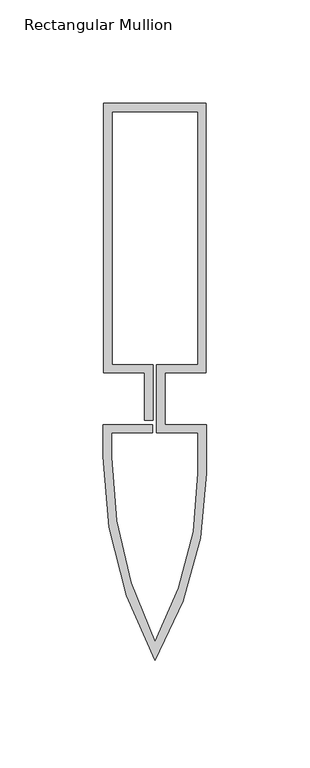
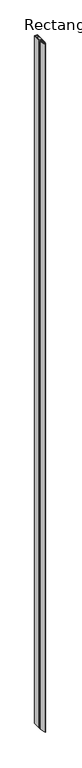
"""IFC4 building model written with IfcOpenShell, lengths in millimetres: member geometry, Rectangular Mullion : Reynaers_CW-50_Mullion-Transom_Horizontal_130.4mm_Facecap-05."""

from ifc_helpers import new_model, si_unit, point, frame, frame_2d, origin, place, context, project, spatial, polyline, circle_curve, trimmed, segment, composite_curve, outline, extrude, source, transform, mapped, element, save


def rectangular_mullion_c67564a4(model_context):
    return source(origin(), model_context, "Body", "SweptSolid", [
        extrude(outline(composite_curve([segment(polyline([(-24.8004059, 142.9), (24.8004059, 142.9), (24.8004059, 12.5), (4.9004059, 12.5), (4.9004059, -12.5), (24.994845, -12.5), (24.994845, -36.0195976)]), True, "CONTINUOUS"), segment(trimmed(circle_curve(frame_2d((-151.2704106, -36.0195976)), 176.2652556), [point((24.994845, -36.0195976))], [point((0.0, -126.5))], False, "CARTESIAN"), True, "CONTINUOUS"), segment(trimmed(circle_curve(frame_2d((181.1469577, -28.111878)), 206.1418028), [point((0.0, -126.5))], [point((-24.994845, -28.111878))], False, "CARTESIAN"), True, "CONTINUOUS"), segment(polyline([(-24.994845, -28.111878), (-24.994845, -12.5), (-1.0995941, -12.5), (-1.0995941, -16.5), (-20.994845, -16.5), (-20.994845, -28.2355063)]), True, "CONTINUOUS"), segment(trimmed(circle_curve(frame_2d((179.2670132, -28.2355063)), 200.2618582), [point((-20.994845, -28.2355063))], [point((0.0, -117.5))], True, "CARTESIAN"), True, "CONTINUOUS"), segment(trimmed(circle_curve(frame_2d((-147.4777527, -36.0547506)), 168.4725977), [point((0.0, -117.5))], [point((20.994845, -36.0547506))], True, "CARTESIAN"), True, "CONTINUOUS"), segment(polyline([(20.994845, -36.0547506), (20.994845, -16.5), (0.9004059, -16.5), (0.9004059, 16.5), (20.8004059, 16.5), (20.8004059, 138.9), (-20.8004059, 138.9), (-20.8004059, 16.5), (-0.9004059, 16.5), (-0.9004059, -10.5), (-4.9004059, -10.5), (-4.9004059, 12.5), (-24.8004059, 12.5), (-24.8004059, 142.9)]), True, "CONTINUOUS")], self_intersect=False)), frame((0.0, 0.0, -12000.0), z_axis=(0.0, 0.0, 1.0), x_axis=(1.0, 0.0, 0.0)), (0.0, 0.0, 1.0), 12000.0),
    ])


if __name__ == "__main__":
    model = new_model("IFC4")
    model_context = context("Model", 3, world=origin())
    ifc_project = project(units=[si_unit("LENGTHUNIT", "METRE", prefix="MILLI")], contexts=[model_context])
    site = spatial("IfcSite", under=ifc_project)
    building = spatial("IfcBuilding", under=site)
    placement = place(None, origin())
    rectangular_mullion_shape = rectangular_mullion_c67564a4(model_context)
    element("IfcMember", 1, ObjectType="Rectangular Mullion : Reynaers_CW-50_Mullion-Transom_Horizontal_130.4mm_Facecap-05", at=placement, inside=building, context=model_context, shape_type="MappedRepresentation", body=[
        mapped(rectangular_mullion_shape, transform((0.0, 0.0, 0.0), x_axis=(1.0, 0.0, 0.0), y_axis=(0.0, 1.0, 0.0), z_axis=(0.0, 0.0, 1.0))),
    ])
    save(model, "model.ifc")
